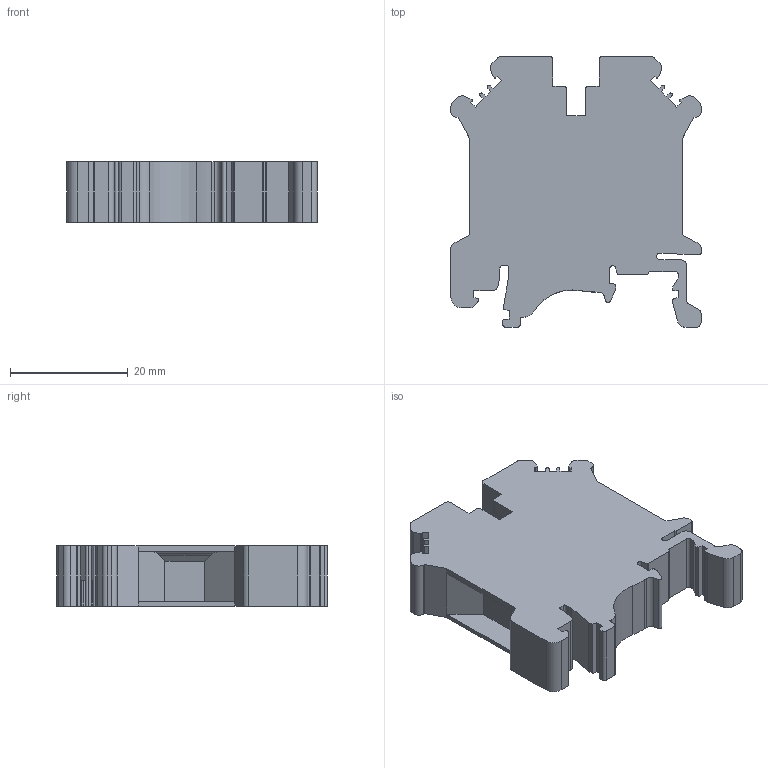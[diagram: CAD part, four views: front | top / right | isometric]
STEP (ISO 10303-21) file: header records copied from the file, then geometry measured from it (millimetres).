
FILE_DESCRIPTION((''),'2;1');
FILE_NAME('PC10-01P-1Y-00A_H_','2020-05-30T',('Administrator'),(''),'PRO/ENGINEER BY PARAMETRIC TECHNOLOGY CORPORATION, 2014000','PRO/ENGINEER BY PARAMETRIC TECHNOLOGY CORPORATION, 2014000','');
FILE_SCHEMA(('CONFIG_CONTROL_DESIGN'));
Length unit declared in the file: millimetre
Products named in the file (1): PC10-01P-1Y-00A_H_
Bounding box: 42.5 x 46 x 10.2 mm (x, y, z)
Volume: 12676.5 mm3; surface area: 6197.8 mm2
Topology: 1 solids, 1 shells, 236 faces, 676 edges, 444 vertices
Faces by surface type: plane 155, cylinder 77, cone 4
Entity records: 7718 total; most frequent: CARTESIAN_POINT 1379, ORIENTED_EDGE 1352, DIRECTION 1291, EDGE_CURVE 676, VECTOR 521, LINE 521, VERTEX_POINT 444, AXIS2_PLACEMENT_3D 385
